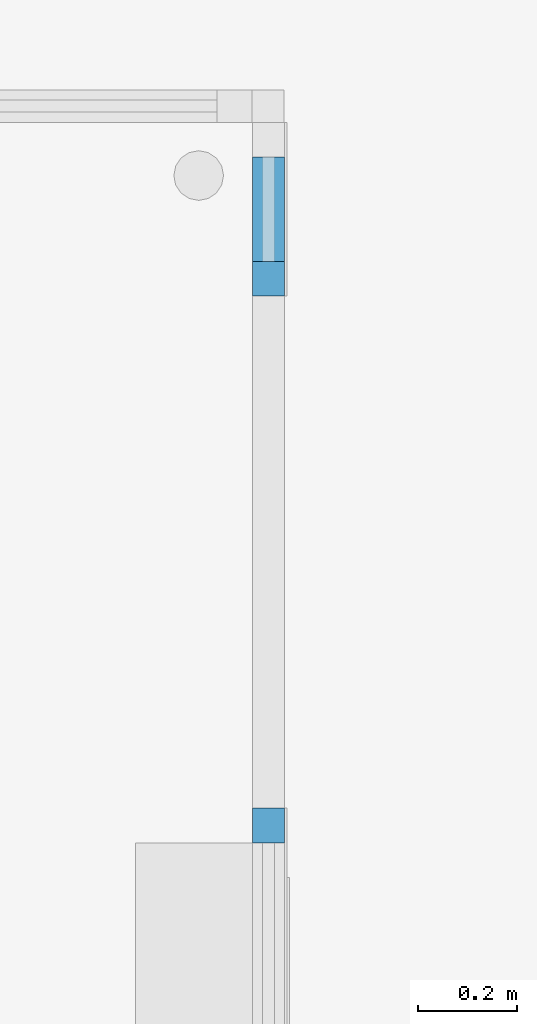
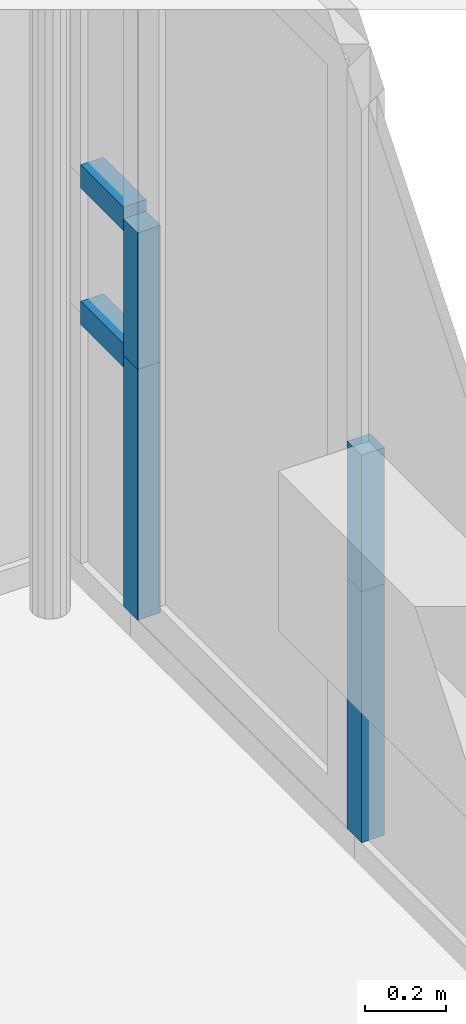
# One storey, part 9 of 117: 6 members, 1 element without a shape of its own.
"""IFC2X3 building model written with IfcOpenShell, lengths in millimetres."""

from ifc_helpers import new_model, entity, si_unit, converted_unit, derived_unit, money_unit, direction, frame, origin_with_axes, place, context, subcontext, project, spatial, faceted_brep, source, transform, mapped, material, type_object, type_shapes, element, aggregate, save


model = new_model("IFC2X3")

# Units and contexts
model_context = context("Model", 3, precision=0.01, world=origin_with_axes(), true_north=direction((0.0, 1.0)))
body_context = subcontext(model_context, "Body", "Model", "MODEL_VIEW")
ifc_project = project(units=[si_unit("LENGTHUNIT", "METRE", prefix="MILLI"), si_unit("AREAUNIT", "SQUARE_METRE"), si_unit("VOLUMEUNIT", "CUBIC_METRE"), converted_unit("PLANEANGLEUNIT", "DEGREE", entity("IfcPlaneAngleMeasure", 0.0174532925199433), si_unit("PLANEANGLEUNIT", "RADIAN"), dimensions=[0, 0, 0, 0, 0, 0, 0]), money_unit("EUR"), converted_unit("TIMEUNIT", "Year", entity("IfcTimeMeasure", 31557600.0), si_unit("TIMEUNIT", "SECOND"), dimensions=[0, 0, 1, 0, 0, 0, 0]), si_unit("MASSUNIT", "GRAM", prefix="KILO"), si_unit("THERMODYNAMICTEMPERATUREUNIT", "DEGREE_CELSIUS"), si_unit("LUMINOUSINTENSITYUNIT", "LUMEN"), si_unit("ENERGYUNIT", "JOULE", prefix="MEGA"), derived_unit("THERMALCONDUCTANCEUNIT", [(si_unit("POWERUNIT", "WATT"), 1), (si_unit("LENGTHUNIT", "METRE"), -1), (si_unit("THERMODYNAMICTEMPERATUREUNIT", "KELVIN"), -1)]), derived_unit("SPECIFICHEATCAPACITYUNIT", [(si_unit("ENERGYUNIT", "JOULE"), 1), (si_unit("MASSUNIT", "GRAM", prefix="KILO"), -1), (si_unit("THERMODYNAMICTEMPERATUREUNIT", "KELVIN"), -1)]), derived_unit("MASSDENSITYUNIT", [(si_unit("MASSUNIT", "GRAM", prefix="KILO"), 1), (si_unit("VOLUMEUNIT", "CUBIC_METRE"), -1)])], contexts=[model_context])

# Site, building, storey
site_placement = place(None, origin_with_axes())
site = spatial("IfcSite", under=ifc_project, at=site_placement, Name="Site", CompositionType="ELEMENT")
building_placement = place(site_placement, origin_with_axes())
building = spatial("IfcBuilding", under=site, at=building_placement, Name="Naam gebouw", CompositionType="ELEMENT")
storey_placement = place(building_placement, frame((0.0, 0.0, 4150.0), z_axis=(0.0, 0.0, 1.0), x_axis=(1.0, 0.0, 0.0)))
storey = spatial("IfcBuildingStorey", under=building, at=storey_placement, Name="1e verdieping N", CompositionType="ELEMENT", Elevation=4150.0)

# Curtain wall, members
curtain_wall_type = type_object("IfcCurtainWallType", Name="Curtain Wall:21_CW_alu kozijn 070x065", PredefinedType="NOTDEFINED")
curtain_wall_placement = place(storey_placement, frame((0.0, 0.0, -4150.0), z_axis=(0.0, 0.0, 1.0), x_axis=(1.0, 0.0, 0.0)))
curtain_wall = element("IfcCurtainWall", 1, at=curtain_wall_placement, inside=storey, type_object=curtain_wall_type, Name="Curtain Wall:21_CW_alu kozijn 070x065", ObjectType="Curtain Wall:21_CW_alu kozijn 070x065")
ifc_material = material(Name="RAL 7024 - Grafietgrijs")
member_type_1 = type_object("IfcMemberType", Name="Rectangular Mullion:31_alu_070x065 RAL 7024", PredefinedType="MULLION")
shared_shape_1 = source(origin_with_axes(), body_context, "Body", "Brep", [
    faceted_brep([(35.00000000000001, -32.5, 753.3000000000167), (-34.99999999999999, -32.50000000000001, 753.3000000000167), (-34.99999999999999, -32.50000000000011, 0.0), (35.00000000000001, -32.50000000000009, 0.0), (34.99999999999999, 32.5, 753.3000000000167), (-35.00000000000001, 32.49999999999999, 753.3000000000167), (-35.00000000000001, 32.4999999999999, 0.0), (34.99999999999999, 32.49999999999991, 0.0)], [[[0, 1, 2, 3]], [[0, 4, 5, 1]], [[1, 5, 6, 2]], [[3, 2, 6, 7]], [[4, 0, 3, 7]], [[5, 4, 7, 6]]]),
])
type_shapes(member_type_1, [shared_shape_1])
member_1_placement = place(curtain_wall_placement, frame((33745.50000004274, 41029.61242629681, 450.0000000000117), z_axis=(0.0, 0.0, 1.0), x_axis=(0.0, 1.0, 0.0)))
member_1 = element("IfcMember", 2, at=member_1_placement, type_object=member_type_1, material=ifc_material, Name="Rectangular Mullion:31_alu_070x065 RAL 7024", ObjectType="MULLION", context=body_context, shape_type="MappedRepresentation", body=[
    mapped(shared_shape_1, transform((0.0, 0.0, 0.0))),
])
member_type_2 = type_object("IfcMemberType", Name="Rectangular Mullion:31_alu_070x065 RAL 7024", PredefinedType="MULLION")
type_shapes(member_type_2, [shared_shape_1])
member_2_placement = place(curtain_wall_placement, frame((33745.50000004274, 42129.61242627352, 450.0000000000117), z_axis=(0.0, 0.0, 1.0), x_axis=(0.0, 1.0, 0.0)))
member_2 = element("IfcMember", 3, at=member_2_placement, type_object=member_type_2, material=ifc_material, Name="Rectangular Mullion:31_alu_070x065 RAL 7024", ObjectType="MULLION", context=body_context, shape_type="MappedRepresentation", body=[
    mapped(shared_shape_1, transform((0.0, 0.0, 0.0))),
])
member_type_3 = type_object("IfcMemberType", Name="Rectangular Mullion:31_alu_070x065 RAL 7024", PredefinedType="MULLION")
shared_shape_2 = source(origin_with_axes(), body_context, "Body", "Brep", [
    faceted_brep([(32.50000000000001, -209.7999999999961, 35.0), (32.50000000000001, -209.7999999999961, -35.0), (32.49999999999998, 0.0, -35.0), (32.49999999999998, 0.0, 35.0), (-32.49999999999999, -209.7999999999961, 35.0), (-32.49999999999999, -209.7999999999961, -35.0), (-32.50000000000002, 0.0, -35.0), (-32.50000000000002, 0.0, 35.0)], [[[0, 1, 2, 3]], [[0, 4, 5, 1]], [[1, 5, 6, 2]], [[3, 2, 6, 7]], [[4, 0, 3, 7]], [[5, 4, 7, 6]]]),
])
type_shapes(member_type_3, [shared_shape_2])
member_3_placement = place(curtain_wall_placement, frame((33745.50000004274, 42374.41242631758, 1612.799999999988), z_axis=(0.0, 0.0, 1.0), x_axis=(1.0, 0.0, 0.0)))
member_3 = element("IfcMember", 4, at=member_3_placement, type_object=member_type_3, material=ifc_material, Name="Rectangular Mullion:31_alu_070x065 RAL 7024", ObjectType="MULLION", context=body_context, shape_type="MappedRepresentation", body=[
    mapped(shared_shape_2, transform((0.0, 0.0, 0.0))),
])
member_4_placement = place(curtain_wall_placement, frame((33745.50000004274, 42374.41242631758, 1203.299999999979), z_axis=(0.0, 0.0, 1.0), x_axis=(1.0, 0.0, 0.0)))
member_4 = element("IfcMember", 5, at=member_4_placement, type_object=member_type_3, material=ifc_material, Name="Rectangular Mullion:31_alu_070x065 RAL 7024", ObjectType="MULLION", context=body_context, shape_type="MappedRepresentation", body=[
    mapped(shared_shape_2, transform((0.0, 0.0, 0.0))),
])
member_type_4 = type_object("IfcMemberType", Name="Rectangular Mullion:31_alu_070x065 RAL 7024", PredefinedType="MULLION")
shared_shape_3 = source(origin_with_axes(), body_context, "Body", "Brep", [
    faceted_brep([(35.00000000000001, -32.5, 409.5000000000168), (-34.99999999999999, -32.50000000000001, 409.5000000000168), (-34.99999999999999, -32.50000000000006, 0.0), (35.00000000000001, -32.50000000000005, 0.0), (34.99999999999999, 32.5, 409.5000000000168), (-35.00000000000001, 32.49999999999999, 409.5000000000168), (-35.00000000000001, 32.49999999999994, 0.0), (34.99999999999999, 32.49999999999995, 0.0)], [[[0, 1, 2, 3]], [[0, 4, 5, 1]], [[1, 5, 6, 2]], [[3, 2, 6, 7]], [[4, 0, 3, 7]], [[5, 4, 7, 6]]]),
])
type_shapes(member_type_4, [shared_shape_3])
member_5_placement = place(curtain_wall_placement, frame((33745.50000004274, 42129.61242627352, 1203.299999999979), z_axis=(0.0, 0.0, 1.0), x_axis=(0.0, 1.0, 0.0)))
member_5 = element("IfcMember", 6, at=member_5_placement, type_object=member_type_4, material=ifc_material, Name="Rectangular Mullion:31_alu_070x065 RAL 7024", ObjectType="MULLION", context=body_context, shape_type="MappedRepresentation", body=[
    mapped(shared_shape_3, transform((0.0, 0.0, 0.0))),
])
member_type_5 = type_object("IfcMemberType", Name="Rectangular Mullion:31_alu_070x065 RAL 7024", PredefinedType="MULLION")
type_shapes(member_type_5, [shared_shape_3])
member_6_placement = place(curtain_wall_placement, frame((33745.50000004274, 41029.61242629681, 1203.299999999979), z_axis=(0.0, 0.0, 1.0), x_axis=(0.0, 1.0, 0.0)))
member_6 = element("IfcMember", 7, at=member_6_placement, type_object=member_type_5, material=ifc_material, Name="Rectangular Mullion:31_alu_070x065 RAL 7024", ObjectType="MULLION", context=body_context, shape_type="MappedRepresentation", body=[
    mapped(shared_shape_3, transform((0.0, 0.0, 0.0))),
])
aggregate(curtain_wall, [member_1, member_3, member_5, member_6, member_4, member_2])

save(model, "model.ifc")
